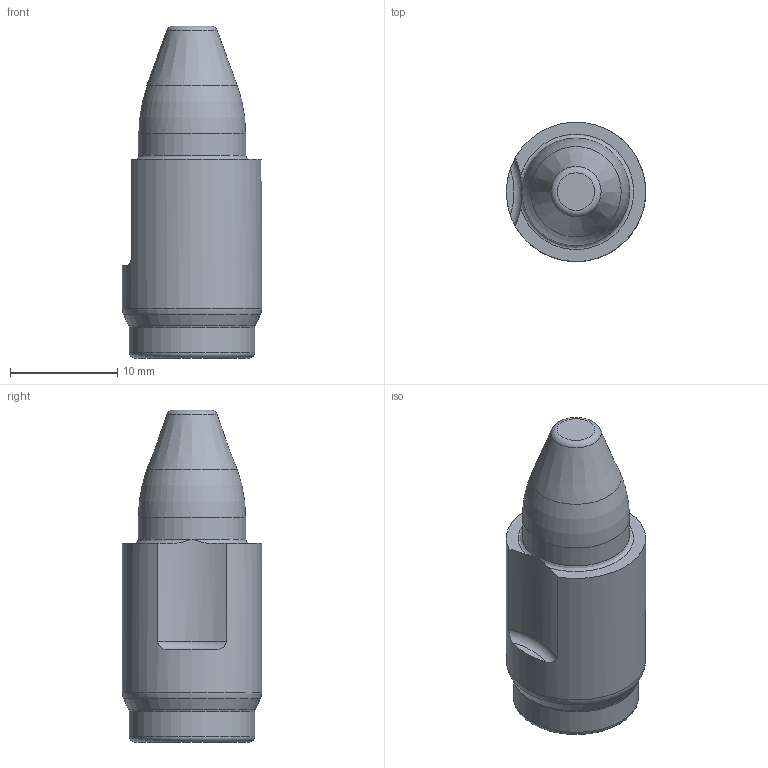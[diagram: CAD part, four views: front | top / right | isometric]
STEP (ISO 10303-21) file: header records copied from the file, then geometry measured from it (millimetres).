
FILE_DESCRIPTION (( 'STEP AP214' ), '1' );
FILE_NAME ('P-10mm-1.9mm-F.STEP', '2023-12-04T13:19:26', ( '' ), ( '' ), 'SwSTEP 2.0', 'SolidWorks 2020', '' );
FILE_SCHEMA (( 'AUTOMOTIVE_DESIGN' ));
Length unit declared in the file: inch
Products named in the file (1): P-10mm-1.9mm-F
Bounding box: 13 x 13 x 30.95 mm (x, y, z)
Volume: 2993.1 mm3; surface area: 1236.3 mm2
Topology: 1 solids, 1 shells, 17 faces, 37 edges, 22 vertices
Faces by surface type: torus 7, cylinder 4, plane 4, cone 2
Full cylindrical faces by diameter (mm): 10 x1, 11.684 x1, 13 x1
Entity records: 454 total; most frequent: CARTESIAN_POINT 95, DIRECTION 74, ORIENTED_EDGE 48, AXIS2_PLACEMENT_3D 36, EDGE_LOOP 27, FACE_OUTER_BOUND 25, EDGE_CURVE 24, VERTEX_POINT 19
